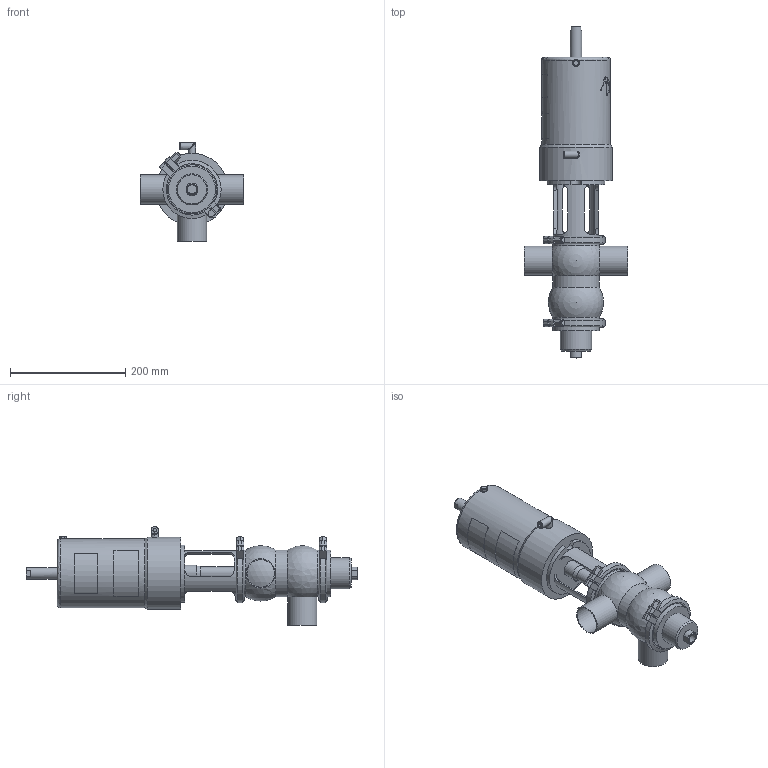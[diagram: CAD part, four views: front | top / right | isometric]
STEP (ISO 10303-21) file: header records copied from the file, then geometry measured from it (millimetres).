
FILE_DESCRIPTION (( 'STEP AP214' ), '1' );
FILE_NAME ('INNOVA S AB-90 W OD 2_10.251.16.0001.STEP', '2024-08-20T12:10:58', ( '' ), ( '' ), 'SwSTEP 2.0', 'SolidWorks 2023', '' );
FILE_SCHEMA (( 'AUTOMOTIVE_DESIGN' ));
Length unit declared in the file: millimetre
Products named in the file (6): 10.251.15.0003_OD 2"; 10.240.15.0001_DN 050; 10.251.15.0001_OD 2"; 10.250.15.0002_Type S T1; INNOVA S AB-90 W OD 2_10.251.16.0001; 10.251.15.0002_DN 2"
Assembly tree (6 placements, depth 2):
  INNOVA S AB-90 W OD 2_10.251.16.0001
    10.251.15.0001_OD 2"
    10.250.15.0002_Type S T1
    10.251.15.0003_OD 2"
    10.240.15.0001_DN 050  x2
    10.251.15.0002_DN 2"
Bounding box: 180 x 575 x 171 mm (x, y, z)
Volume: 3813362.1 mm3; surface area: 325737.2 mm2
Topology: 6 solids, 6 shells, 425 faces, 1103 edges, 717 vertices
Faces by surface type: plane 202, cylinder 110, bspline 80, cone 27, sphere 5, torus 1
Full cylindrical faces by diameter (mm): 4.2 x2, 5 x1, 6 x1, 6.15 x1, 8 x4, 8.5 x1, 10.5 x2, 12.5 x6, 16 x1, 20 x1, 23 x1, 28 x1, 47.5 x3, 50.8 x3, 54 x1, 78 x1, 81 x4, 93 x4, 119.5 x1, 125 x1
Entity records: 21215 total; most frequent: CARTESIAN_POINT 11050, ORIENTED_EDGE 1732, DIRECTION 1359, EDGE_CURVE 866, VERTEX_POINT 593, AXIS2_PLACEMENT_3D 521, EDGE_LOOP 457, FACE_OUTER_BOUND 408
